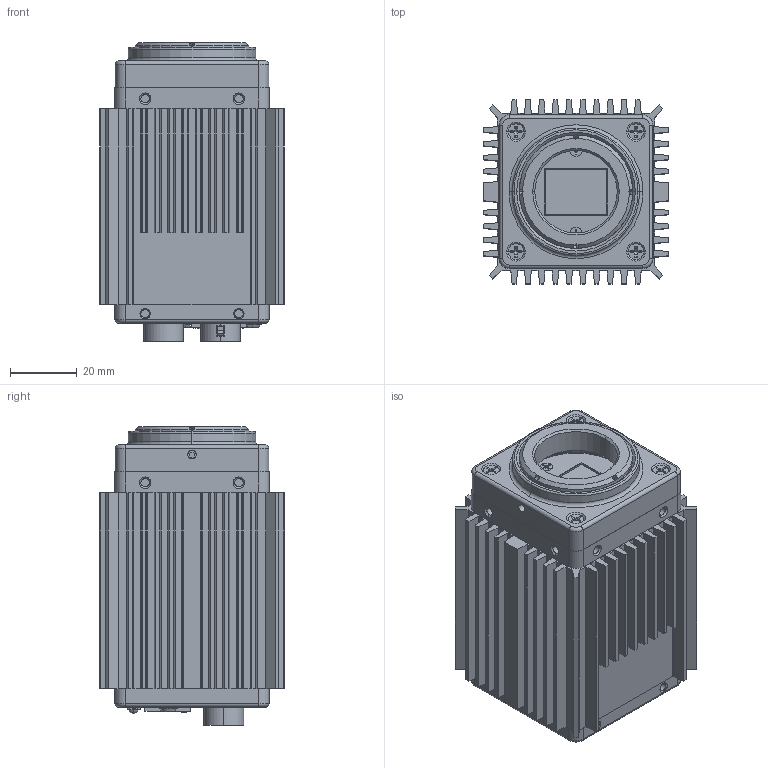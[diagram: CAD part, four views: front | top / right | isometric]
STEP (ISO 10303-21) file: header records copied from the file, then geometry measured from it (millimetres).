
FILE_DESCRIPTION (( 'STEP AP203' ), '1' );
FILE_NAME ('PoE-B2510x-SC000 (5MP ICX-655) Dummy.STEP', '2013-08-20T19:47:24', ( 'AR' ), ( 'Microsoft' ), 'SwSTEP 2.0', 'SolidWorks 2002308', '' );
FILE_SCHEMA (( 'CONFIG_CONTROL_DESIGN' ));
Products named in the file (25): Front Plate 2MP-HD; SJ-Focal Adjuster_Thread; M3.0x0.5 Set Screw_M2x0.4x5; M2.5x12; 5MP Sony Gasket; M2x4_Flat-92010A001; PoE-B2510x-SC000 (5MP ICX-655) Dummy; Bobcat-K Heat Sink Assembly_2Tap Sony-VGA; Heat Sink Sony-SJ; Guidance Pin - 91585A009; ICX655 5.02MP-Sony; Mid Housing GEV-LC-Ver2_PoE-NO VDRV; GEV-LC Assembly_PoE; Rear Cover GEV-LC_Lynx; Hirose-Exploded_Exploded; Hirose_HR10A_Exploded; Hirose-Exploded_HR10A-10R-12SB(71); HR10A-10R-12SB; Molex USB 500075; LED Rear Housing; Amphenol GIG-E Connector; Front Cover Assembly; Front Housing-Mill; 22x17 IR Filter; Gasket Front Glass
Assembly tree (38 placements, depth 4):
  PoE-B2510x-SC000 (5MP ICX-655) Dummy
    M2x4_Flat-92010A001  x2
    Mid Housing GEV-LC-Ver2_PoE-NO VDRV
    Front Cover Assembly
      M2.5x12  x4
      M2x4_Flat-92010A001  x2
      Front Housing-Mill
      5MP Sony Gasket
      22x17 IR Filter
      SJ-Focal Adjuster_Thread
      Gasket Front Glass
      M3.0x0.5 Set Screw_M2x0.4x5  x2
      Front Plate 2MP-HD
    Bobcat-K Heat Sink Assembly_2Tap Sony-VGA
      Heat Sink Sony-SJ
      Guidance Pin - 91585A009  x2
      ICX655 5.02MP-Sony
    GEV-LC Assembly_PoE
      Amphenol GIG-E Connector
      M2.5x12  x4
      M2x4_Flat-92010A001  x2
      Molex USB 500075
      Rear Cover GEV-LC_Lynx
      Hirose-Exploded_Exploded
        Hirose_HR10A_Exploded
      LED Rear Housing
      Hirose-Exploded_HR10A-10R-12SB(71)
        HR10A-10R-12SB
Bounding box: 55 x 55 x 89.27 mm (x, y, z)
Volume: 71342.1 mm3; surface area: 74868.5 mm2
Topology: 33 solids, 35 shells, 2781 faces, 7481 edges, 4807 vertices
Faces by surface type: plane 1634, cylinder 814, cone 264, bspline 26, sphere 26, torus 17
Entity records: 77257 total; most frequent: CARTESIAN_POINT 14515, ORIENTED_EDGE 12534, DIRECTION 12416, EDGE_CURVE 6267, VECTOR 4426, LINE 4426, VERTEX_POINT 4043, AXIS2_PLACEMENT_3D 3995
